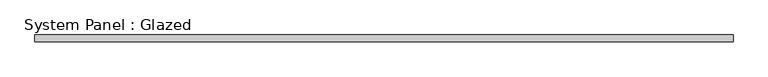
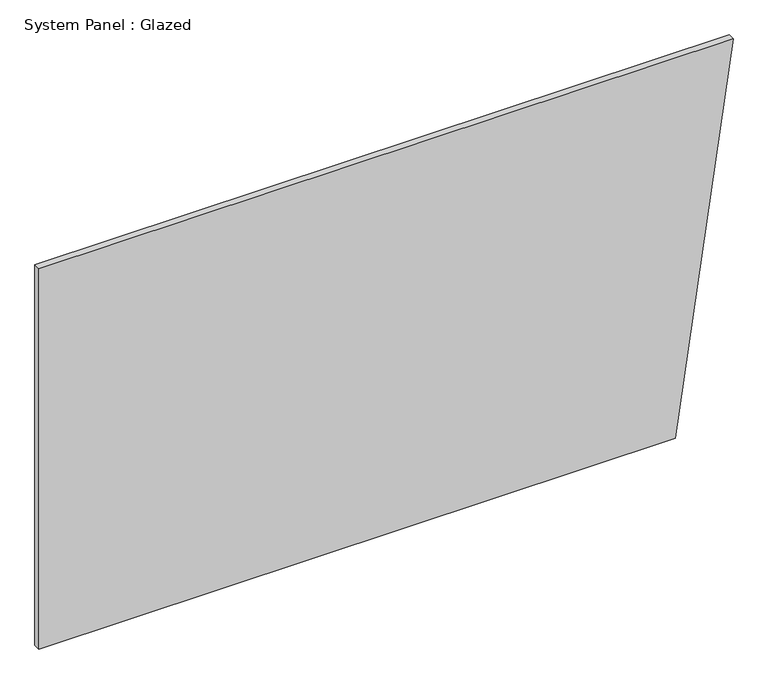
"""IFC4 building model written with IfcOpenShell, lengths in millimetres: plate geometry, System Panel : Glazed."""

from ifc_helpers import new_model, si_unit, frame, origin, place, context, project, spatial, polyline, outline, extrude, source, transform, mapped, element, save


def system_panel_glazed_7634dc14(model_context):
    return source(origin(), model_context, "Body", "SweptSolid", [
        extrude(outline(polyline([(0.0, -1315.6834532), (0.0, 1096.4028776), (1524.0, 1315.6834532), (1524.0, -1315.6834532), (0.0, -1315.6834532)])), frame((0.0, 19.05, 0.0), z_axis=(0.0, 1.0, 0.0), x_axis=(0.0, 0.0, 1.0)), (0.0, 0.0, 1.0), 25.4),
    ])


if __name__ == "__main__":
    model = new_model("IFC4")
    model_context = context("Model", 3, world=origin())
    ifc_project = project(units=[si_unit("LENGTHUNIT", "METRE", prefix="MILLI")], contexts=[model_context])
    site = spatial("IfcSite", under=ifc_project)
    building = spatial("IfcBuilding", under=site)
    placement = place(None, origin())
    system_panel_glazed_shape = system_panel_glazed_7634dc14(model_context)
    element("IfcPlate", 1, ObjectType="System Panel : Glazed", at=placement, inside=building, context=model_context, shape_type="MappedRepresentation", body=[
        mapped(system_panel_glazed_shape, transform((0.0, 0.0, 0.0), x_axis=(1.0, 0.0, 0.0), y_axis=(0.0, 1.0, 0.0), z_axis=(0.0, 0.0, 1.0))),
    ])
    save(model, "model.ifc")
